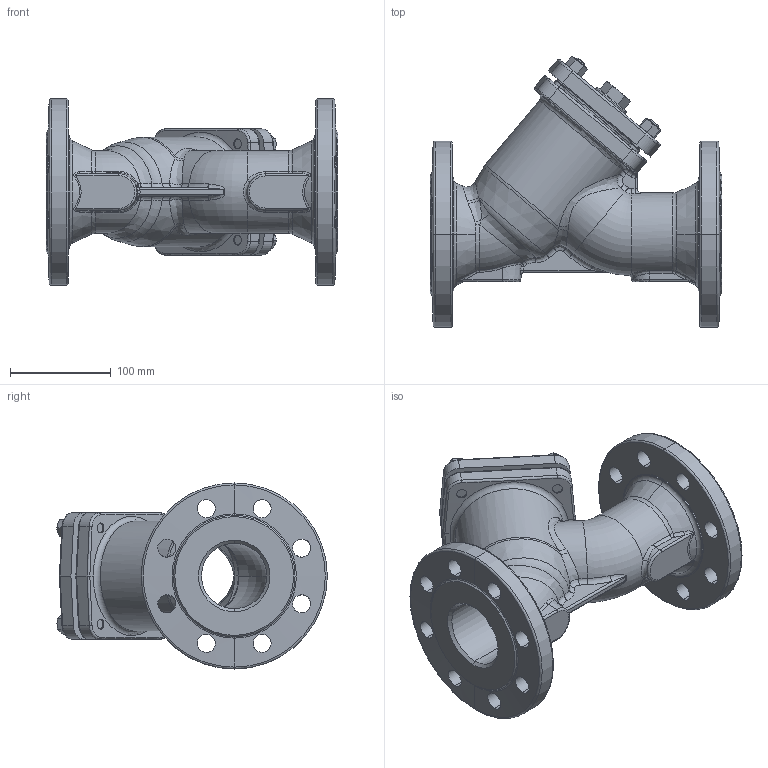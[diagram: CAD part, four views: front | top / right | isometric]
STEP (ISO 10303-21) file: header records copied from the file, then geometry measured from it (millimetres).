
FILE_DESCRIPTION (( 'STEP AP203' ), '1' );
FILE_NAME ('821_DN65 PN40.STEP', '2010-01-13T07:05:36', ( 'wtarnaws' ), ( '' ), 'SwSTEP 2.0', 'SolidWorks 2010', '' );
FILE_SCHEMA (( 'CONFIG_CONTROL_DESIGN' ));
Length unit declared in the file: millimetre
Products named in the file (6): 821_DN65 PN40; Kad³ub 65; Pokrywa 65; KOREK 1_Default; M12 x 35_PreviewCfg; Nakrêtka szeœciok¹tna PN-86_M-82144_M12
Assembly tree (11 placements, depth 2):
  821_DN65 PN40
    KOREK 1_Default
    M12 x 35_PreviewCfg  x4
    Nakrêtka szeœciok¹tna PN-86_M-82144_M12  x4
    Pokrywa 65
    Kad³ub 65
Bounding box: 290 x 268.89 x 185 mm (x, y, z)
Volume: 2181347.1 mm3; surface area: 374369.3 mm2
Topology: 11 solids, 11 shells, 576 faces, 1284 edges, 748 vertices
Faces by surface type: cylinder 180, cone 118, plane 96, bspline 93, torus 87, sphere 2
Entity records: 42429 total; most frequent: CARTESIAN_POINT 32289, ORIENTED_EDGE 1980, DIRECTION 1879, EDGE_CURVE 990, AXIS2_PLACEMENT_3D 807, VERTEX_POINT 580, EDGE_LOOP 500, CIRCLE 454
